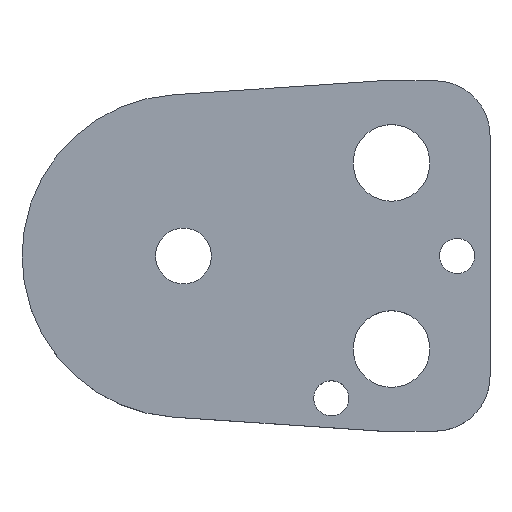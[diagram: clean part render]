
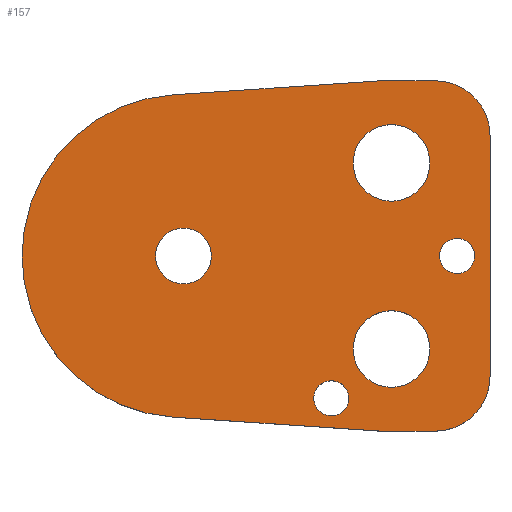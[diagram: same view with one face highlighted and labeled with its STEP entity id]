
A CAD part, top view. The second image highlights one B-rep face of the part: STEP entity #157.
In plain terms, the highlighted planar face has unit normal (0, 0, 1).
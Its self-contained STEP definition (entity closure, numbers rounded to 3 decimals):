
#103=FACE_BOUND('',#207,.T.);
#104=FACE_BOUND('',#208,.T.);
#105=FACE_BOUND('',#209,.T.);
#106=FACE_BOUND('',#210,.T.);
#107=FACE_BOUND('',#211,.T.);
#108=FACE_BOUND('',#212,.T.);
#122=CIRCLE('',#480,10.);
#124=CIRCLE('',#484,10.);
#127=CIRCLE('',#490,29.5);
#138=CIRCLE('',#503,3.2);
#139=CIRCLE('',#504,3.2);
#140=CIRCLE('',#505,7.);
#141=CIRCLE('',#506,7.);
#142=CIRCLE('',#507,7.);
#143=CIRCLE('',#508,7.);
#144=CIRCLE('',#509,3.2);
#145=CIRCLE('',#510,3.2);
#146=CIRCLE('',#511,5.1);
#147=CIRCLE('',#512,5.1);
#157=ADVANCED_FACE('',(#103,#104,#105,#106,#107,#108),#174,.T.);
#174=PLANE('',#513);
#207=EDGE_LOOP('',(#273,#274,#275,#276,#277,#278,#279,#280));
#208=EDGE_LOOP('',(#281,#282));
#209=EDGE_LOOP('',(#283,#284));
#210=EDGE_LOOP('',(#285,#286));
#211=EDGE_LOOP('',(#287,#288));
#212=EDGE_LOOP('',(#289,#290));
#273=ORIENTED_EDGE('',*,*,#368,.T.);
#274=ORIENTED_EDGE('',*,*,#372,.T.);
#275=ORIENTED_EDGE('',*,*,#375,.T.);
#276=ORIENTED_EDGE('',*,*,#378,.T.);
#277=ORIENTED_EDGE('',*,*,#381,.T.);
#278=ORIENTED_EDGE('',*,*,#384,.T.);
#279=ORIENTED_EDGE('',*,*,#387,.T.);
#280=ORIENTED_EDGE('',*,*,#390,.T.);
#281=ORIENTED_EDGE('',*,*,#401,.T.);
#282=ORIENTED_EDGE('',*,*,#402,.T.);
#283=ORIENTED_EDGE('',*,*,#403,.T.);
#284=ORIENTED_EDGE('',*,*,#404,.T.);
#285=ORIENTED_EDGE('',*,*,#405,.T.);
#286=ORIENTED_EDGE('',*,*,#406,.T.);
#287=ORIENTED_EDGE('',*,*,#407,.T.);
#288=ORIENTED_EDGE('',*,*,#408,.T.);
#289=ORIENTED_EDGE('',*,*,#409,.T.);
#290=ORIENTED_EDGE('',*,*,#410,.T.);
#332=VERTEX_POINT('',#649);
#333=VERTEX_POINT('',#651);
#336=VERTEX_POINT('',#658);
#338=VERTEX_POINT('',#664);
#340=VERTEX_POINT('',#670);
#342=VERTEX_POINT('',#676);
#344=VERTEX_POINT('',#682);
#346=VERTEX_POINT('',#688);
#357=VERTEX_POINT('',#717);
#358=VERTEX_POINT('',#718);
#359=VERTEX_POINT('',#721);
#360=VERTEX_POINT('',#722);
#361=VERTEX_POINT('',#725);
#362=VERTEX_POINT('',#726);
#363=VERTEX_POINT('',#729);
#364=VERTEX_POINT('',#730);
#365=VERTEX_POINT('',#733);
#366=VERTEX_POINT('',#734);
#368=EDGE_CURVE('',#333,#332,#422,.T.);
#372=EDGE_CURVE('',#332,#336,#426,.T.);
#375=EDGE_CURVE('',#336,#338,#122,.T.);
#378=EDGE_CURVE('',#338,#340,#430,.T.);
#381=EDGE_CURVE('',#340,#342,#124,.T.);
#384=EDGE_CURVE('',#342,#344,#434,.T.);
#387=EDGE_CURVE('',#344,#346,#437,.T.);
#390=EDGE_CURVE('',#346,#333,#127,.T.);
#401=EDGE_CURVE('',#357,#358,#138,.T.);
#402=EDGE_CURVE('',#358,#357,#139,.T.);
#403=EDGE_CURVE('',#359,#360,#140,.T.);
#404=EDGE_CURVE('',#360,#359,#141,.T.);
#405=EDGE_CURVE('',#361,#362,#142,.T.);
#406=EDGE_CURVE('',#362,#361,#143,.T.);
#407=EDGE_CURVE('',#363,#364,#144,.T.);
#408=EDGE_CURVE('',#364,#363,#145,.T.);
#409=EDGE_CURVE('',#365,#366,#146,.T.);
#410=EDGE_CURVE('',#366,#365,#147,.T.);
#422=LINE('',#650,#450);
#426=LINE('',#659,#454);
#430=LINE('',#671,#458);
#434=LINE('',#683,#462);
#437=LINE('',#689,#465);
#450=VECTOR('',#527,1.);
#454=VECTOR('',#533,1.);
#458=VECTOR('',#545,1.);
#462=VECTOR('',#557,1.);
#465=VECTOR('',#562,1.);
#480=AXIS2_PLACEMENT_3D('',#665,#538,#539);
#484=AXIS2_PLACEMENT_3D('',#677,#550,#551);
#490=AXIS2_PLACEMENT_3D('',#693,#568,#569);
#503=AXIS2_PLACEMENT_3D('',#716,#594,#595);
#504=AXIS2_PLACEMENT_3D('',#719,#596,#597);
#505=AXIS2_PLACEMENT_3D('',#720,#598,#599);
#506=AXIS2_PLACEMENT_3D('',#723,#600,#601);
#507=AXIS2_PLACEMENT_3D('',#724,#602,#603);
#508=AXIS2_PLACEMENT_3D('',#727,#604,#605);
#509=AXIS2_PLACEMENT_3D('',#728,#606,#607);
#510=AXIS2_PLACEMENT_3D('',#731,#608,#609);
#511=AXIS2_PLACEMENT_3D('',#732,#610,#611);
#512=AXIS2_PLACEMENT_3D('',#735,#612,#613);
#513=AXIS2_PLACEMENT_3D('',#736,#614,#615);
#527=DIRECTION('',(0.998,-0.067,0.));
#533=DIRECTION('',(1.,0.,0.));
#538=DIRECTION('',(0.,0.,1.));
#539=DIRECTION('',(-0.707,0.707,0.));
#545=DIRECTION('',(0.,1.,0.));
#550=DIRECTION('',(0.,0.,1.));
#551=DIRECTION('',(-0.707,-0.707,0.));
#557=DIRECTION('',(-1.,0.,0.));
#562=DIRECTION('',(-0.998,-0.067,0.));
#568=DIRECTION('',(0.,0.,1.));
#569=DIRECTION('',(1.,0.,0.));
#594=DIRECTION('',(0.,0.,-1.));
#595=DIRECTION('',(-1.,0.,0.));
#596=DIRECTION('',(0.,0.,-1.));
#597=DIRECTION('',(1.,0.,0.));
#598=DIRECTION('',(0.,0.,-1.));
#599=DIRECTION('',(-1.,0.,0.));
#600=DIRECTION('',(0.,0.,-1.));
#601=DIRECTION('',(1.,0.,0.));
#602=DIRECTION('',(0.,0.,-1.));
#603=DIRECTION('',(-1.,0.,0.));
#604=DIRECTION('',(0.,0.,-1.));
#605=DIRECTION('',(1.,0.,0.));
#606=DIRECTION('',(0.,0.,-1.));
#607=DIRECTION('',(-1.,0.,0.));
#608=DIRECTION('',(0.,0.,-1.));
#609=DIRECTION('',(1.,0.,0.));
#610=DIRECTION('',(0.,0.,-1.));
#611=DIRECTION('',(-1.,0.,0.));
#612=DIRECTION('',(0.,0.,-1.));
#613=DIRECTION('',(1.,0.,0.));
#614=DIRECTION('',(0.,0.,1.));
#615=DIRECTION('',(0.998,-0.067,0.));
#649=CARTESIAN_POINT('',(36.,-32.,10.));
#650=CARTESIAN_POINT('',(36.,-32.,10.));
#651=CARTESIAN_POINT('',(-1.989,-29.433,10.));
#658=CARTESIAN_POINT('',(46.,-32.,10.));
#659=CARTESIAN_POINT('',(36.,-32.,10.));
#664=CARTESIAN_POINT('',(56.,-22.,10.));
#665=CARTESIAN_POINT('',(46.,-22.,10.));
#670=CARTESIAN_POINT('',(56.,22.,10.));
#671=CARTESIAN_POINT('',(56.,22.,10.));
#676=CARTESIAN_POINT('',(46.,32.,10.));
#677=CARTESIAN_POINT('',(46.,22.,10.));
#682=CARTESIAN_POINT('',(36.,32.,10.));
#683=CARTESIAN_POINT('',(36.,32.,10.));
#688=CARTESIAN_POINT('',(-1.989,29.433,10.));
#689=CARTESIAN_POINT('',(36.,32.,10.));
#693=CARTESIAN_POINT('',(0.,0.,10.));
#716=CARTESIAN_POINT('',(50.,0.,10.));
#717=CARTESIAN_POINT('',(50.,3.2,10.));
#718=CARTESIAN_POINT('',(50.,-3.2,10.));
#719=CARTESIAN_POINT('',(50.,0.,10.));
#720=CARTESIAN_POINT('',(38.,17.,10.));
#721=CARTESIAN_POINT('',(38.,24.,10.));
#722=CARTESIAN_POINT('',(38.,10.,10.));
#723=CARTESIAN_POINT('',(38.,17.,10.));
#724=CARTESIAN_POINT('',(38.,-17.,10.));
#725=CARTESIAN_POINT('',(38.,-10.,10.));
#726=CARTESIAN_POINT('',(38.,-24.,10.));
#727=CARTESIAN_POINT('',(38.,-17.,10.));
#728=CARTESIAN_POINT('',(27.,-26.,10.));
#729=CARTESIAN_POINT('',(27.,-22.8,10.));
#730=CARTESIAN_POINT('',(27.,-29.2,10.));
#731=CARTESIAN_POINT('',(27.,-26.,10.));
#732=CARTESIAN_POINT('',(0.,0.,10.));
#733=CARTESIAN_POINT('',(0.,5.1,10.));
#734=CARTESIAN_POINT('',(0.,-5.1,10.));
#735=CARTESIAN_POINT('',(0.,0.,10.));
#736=CARTESIAN_POINT('',(-1.989,-29.433,10.));
